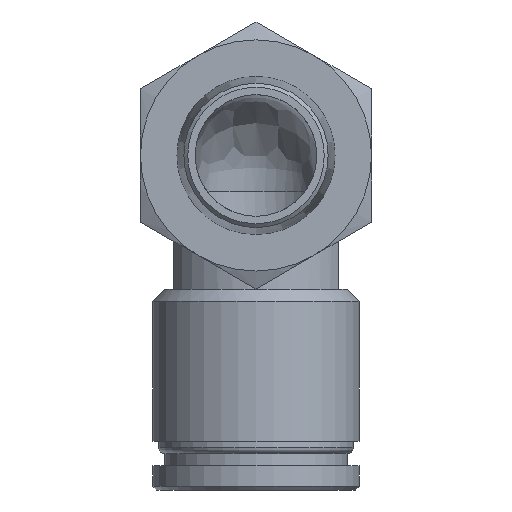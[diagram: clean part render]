
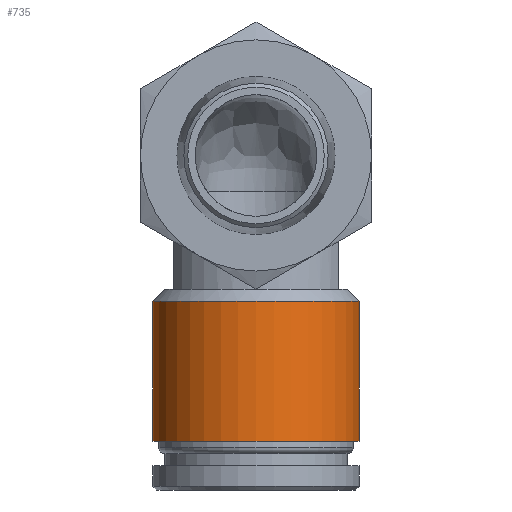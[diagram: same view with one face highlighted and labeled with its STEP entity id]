
A CAD part, front view. The second image highlights one B-rep face of the part: STEP entity #735.
In plain terms, the highlighted cylindrical face has radius 8.5 mm (diameter 17 mm), a full revolution.
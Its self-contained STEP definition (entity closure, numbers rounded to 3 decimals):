
#25=CYLINDRICAL_SURFACE('',#849,8.5);
#120=FACE_OUTER_BOUND('',#177,.T.);
#177=EDGE_LOOP('',(#626,#627,#628,#629));
#207=LINE('',#1326,#237);
#237=VECTOR('',#1051,8.5);
#286=CIRCLE('',#842,8.5);
#289=CIRCLE('',#848,8.5);
#350=VERTEX_POINT('',#1313);
#352=VERTEX_POINT('',#1323);
#443=EDGE_CURVE('',#350,#350,#286,.T.);
#447=EDGE_CURVE('',#352,#352,#289,.T.);
#448=EDGE_CURVE('',#350,#352,#207,.T.);
#626=ORIENTED_EDGE('',*,*,#443,.F.);
#627=ORIENTED_EDGE('',*,*,#448,.T.);
#628=ORIENTED_EDGE('',*,*,#447,.T.);
#629=ORIENTED_EDGE('',*,*,#448,.F.);
#735=ADVANCED_FACE('',(#120),#25,.T.);
#842=AXIS2_PLACEMENT_3D('',#1315,#1034,#1035);
#848=AXIS2_PLACEMENT_3D('',#1324,#1047,#1048);
#849=AXIS2_PLACEMENT_3D('',#1325,#1049,#1050);
#1034=DIRECTION('center_axis',(0.,0.,1.));
#1035=DIRECTION('ref_axis',(1.,0.,0.));
#1047=DIRECTION('center_axis',(0.,0.,1.));
#1048=DIRECTION('ref_axis',(1.,0.,0.));
#1049=DIRECTION('center_axis',(0.,0.,1.));
#1050=DIRECTION('ref_axis',(0.,-1.,0.));
#1051=DIRECTION('',(0.,0.,-1.));
#1313=CARTESIAN_POINT('',(0.,21.4,-12.));
#1315=CARTESIAN_POINT('Origin',(0.,12.9,-12.));
#1323=CARTESIAN_POINT('',(0.,21.4,-23.5));
#1324=CARTESIAN_POINT('Origin',(0.,12.9,-23.5));
#1325=CARTESIAN_POINT('Origin',(0.,12.9,-17.75));
#1326=CARTESIAN_POINT('',(0.,21.4,-17.75));
